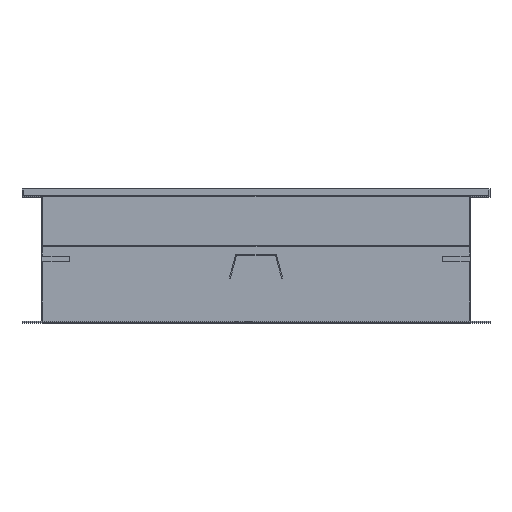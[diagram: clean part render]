
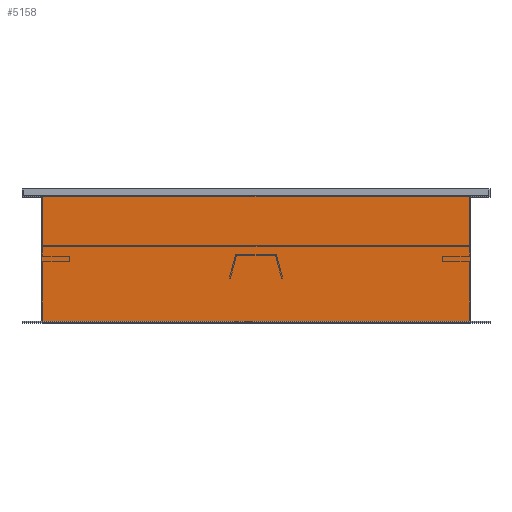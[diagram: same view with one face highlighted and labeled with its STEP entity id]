
A CAD part, top view. The second image highlights one B-rep face of the part: STEP entity #5158.
In plain terms, the highlighted planar face has unit normal (0, 0, 1).
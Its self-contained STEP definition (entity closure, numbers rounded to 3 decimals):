
#1829=DIRECTION('',(1.,0.,0.));
#1830=VECTOR('',#1829,804.);
#1831=CARTESIAN_POINT('',(-402.,-248.,402.));
#1832=LINE('',#1831,#1830);
#1837=DIRECTION('',(0.,-1.,0.));
#1838=VECTOR('',#1837,234.);
#1839=CARTESIAN_POINT('',(-402.,-14.,402.));
#1840=LINE('',#1839,#1838);
#1841=DIRECTION('',(1.,0.,0.));
#1842=VECTOR('',#1841,804.);
#1843=CARTESIAN_POINT('',(-402.,-14.,402.));
#1844=LINE('',#1843,#1842);
#1845=DIRECTION('',(0.,-1.,0.));
#1846=VECTOR('',#1845,234.);
#1847=CARTESIAN_POINT('',(402.,-14.,402.));
#1848=LINE('',#1847,#1846);
#2215=CARTESIAN_POINT('',(-402.,-14.,402.));
#2216=CARTESIAN_POINT('',(-402.,-248.,402.));
#2217=VERTEX_POINT('',#2215);
#2218=VERTEX_POINT('',#2216);
#2235=CARTESIAN_POINT('',(402.,-14.,402.));
#2236=CARTESIAN_POINT('',(402.,-248.,402.));
#2237=VERTEX_POINT('',#2235);
#2238=VERTEX_POINT('',#2236);
#5146=CARTESIAN_POINT('',(-400.,-14.,402.));
#5147=DIRECTION('',(0.,0.,1.));
#5148=DIRECTION('',(0.,-1.,0.));
#5149=AXIS2_PLACEMENT_3D('',#5146,#5147,#5148);
#5150=PLANE('',#5149);
#5151=ORIENTED_EDGE('',*,*,#2855,.F.);
#5152=ORIENTED_EDGE('',*,*,#2842,.T.);
#5154=ORIENTED_EDGE('',*,*,#5153,.T.);
#5155=ORIENTED_EDGE('',*,*,#5139,.F.);
#5156=EDGE_LOOP('',(#5151,#5152,#5154,#5155));
#5157=FACE_OUTER_BOUND('',#5156,.F.);
#2842=EDGE_CURVE('',#2217,#2237,#1844,.T.);
#2855=EDGE_CURVE('',#2217,#2218,#1840,.T.);
#5139=EDGE_CURVE('',#2218,#2238,#1832,.T.);
#5153=EDGE_CURVE('',#2237,#2238,#1848,.T.);
#5158=ADVANCED_FACE('',(#5157),#5150,.T.);
